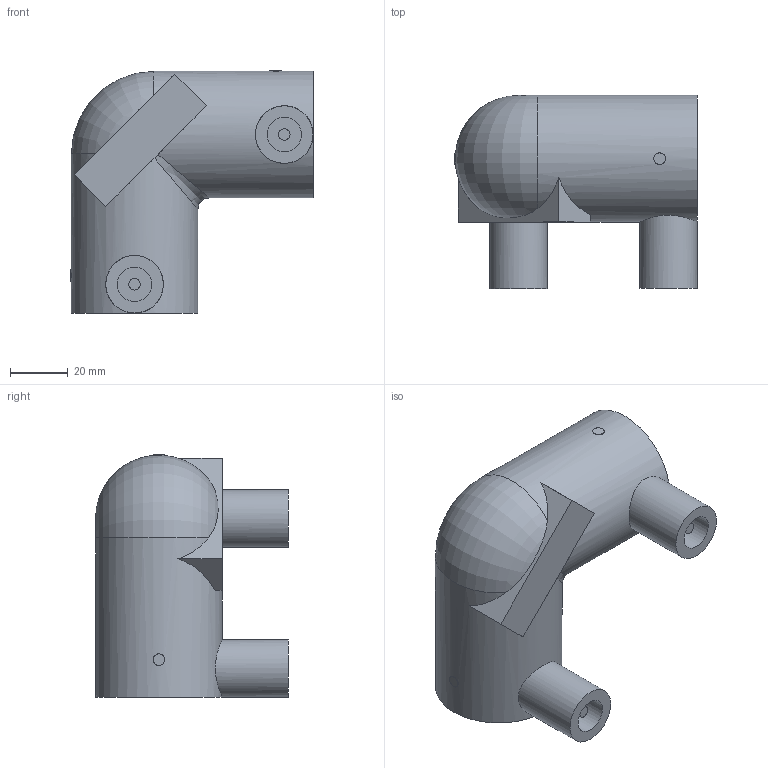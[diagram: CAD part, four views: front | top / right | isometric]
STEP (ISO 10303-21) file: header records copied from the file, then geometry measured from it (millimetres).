
FILE_DESCRIPTION(/* description */ ('Unknown'),/* implementation_level */ '2;1');
FILE_NAME(/* name */ 'GE9P020C ',/* time_stamp */ '2021-03-02T12:14:40+01:00',/* author */ ('Unknown'),/* organization */ ('Unknown'),/* preprocessor_version */ 'ST-DEVELOPER v16.7',/* originating_system */ 'Solid Edge',/* authorisation */ 'Unknown');
FILE_SCHEMA (('AUTOMOTIVE_DESIGN {1 0 10303 214 3 1 1}'));
Length unit declared in the file: millimetre
Products named in the file (1): GE9P020C 
Bounding box: 84.1 x 67 x 84.1 mm (x, y, z)
Volume: 161229.9 mm3; surface area: 31434 mm2
Topology: 1 solids, 1 shells, 36 faces, 82 edges, 56 vertices
Faces by surface type: plane 19, cylinder 14, torus 2, bspline 1
Full cylindrical faces by diameter (mm): 4 x4, 12 x2, 17 x2, 20 x4, 44 x2
Entity records: 1008 total; most frequent: CARTESIAN_POINT 272, DIRECTION 152, ORIENTED_EDGE 116, AXIS2_PLACEMENT_3D 71, EDGE_LOOP 60, FACE_BOUND 60, EDGE_CURVE 58, VERTEX_POINT 46
